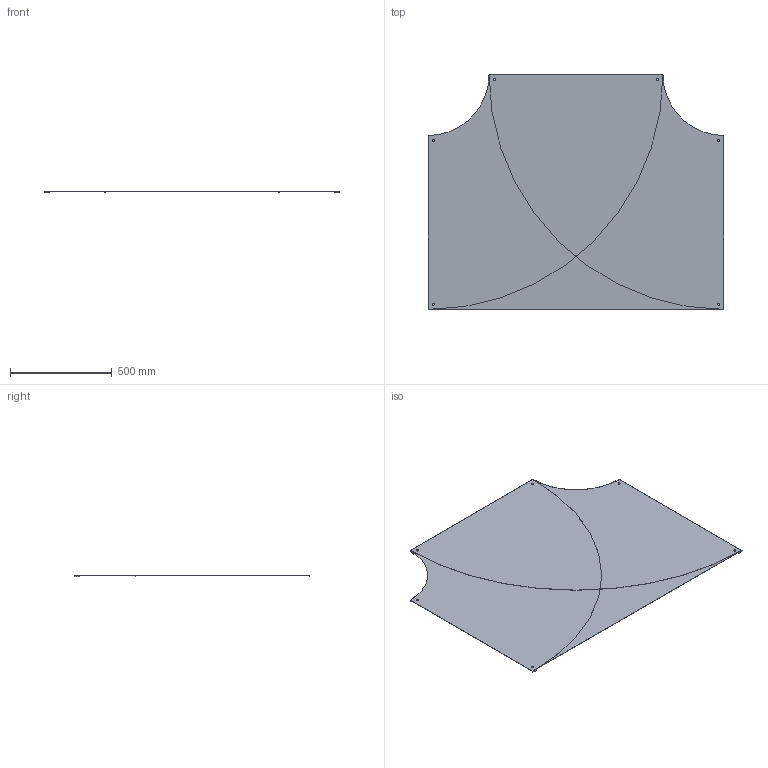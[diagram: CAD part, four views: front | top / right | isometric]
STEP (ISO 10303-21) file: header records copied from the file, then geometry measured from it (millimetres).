
FILE_DESCRIPTION(/* description */ ('','CAx-IF Rec.Pracs.---Representation and Presentation of Product Manufacturing Information (PMI)---4.0---2014-10-13'),/* implementation_level */ '2;1');
FILE_NAME(/* name */ 'Eurostrut_EETC800-300_Cover T-Piece for Cable Ladder ECL.step',/* time_stamp */ '2026-09-10T09:51:46+02:00',/* author */ (''),/* organization */ (''),/* preprocessor_version */ 'ST-DEVELOPER v20.1',/* originating_system */ 'Autodesk Revit 2027 27.2.0.39',/* authorisation */ '');
FILE_SCHEMA (('AP242_MANAGED_MODEL_BASED_3D_ENGINEERING_MIM_LF { 1 0 10303 442 2 1 4 }'));
Length unit declared in the file: millimetre
Products named in the file (7): TopLevelAssembly; Extrusion; Joined Solid Geometry; Joined Solid Geometry_1; Joined Solid Geometry_2; Joined Solid Geometry_3; Joined Solid Geometry_4
Assembly tree (6 placements, depth 2):
  TopLevelAssembly
    Extrusion
    Joined Solid Geometry
    Joined Solid Geometry_1
    Joined Solid Geometry_2
    Joined Solid Geometry_3
    Joined Solid Geometry_4
Bounding box: 1450 x 1151.5 x 9 mm (x, y, z)
Volume: 5208868.9 mm3; surface area: 6965774.9 mm2
Topology: 9 solids, 9 shells, 84 faces, 198 edges, 132 vertices
Faces by surface type: plane 42, cylinder 42
Entity records: 2630 total; most frequent: DIRECTION 476, CARTESIAN_POINT 427, ORIENTED_EDGE 396, EDGE_CURVE 198, AXIS2_PLACEMENT_3D 181, VERTEX_POINT 132, LINE 114, VECTOR 114
